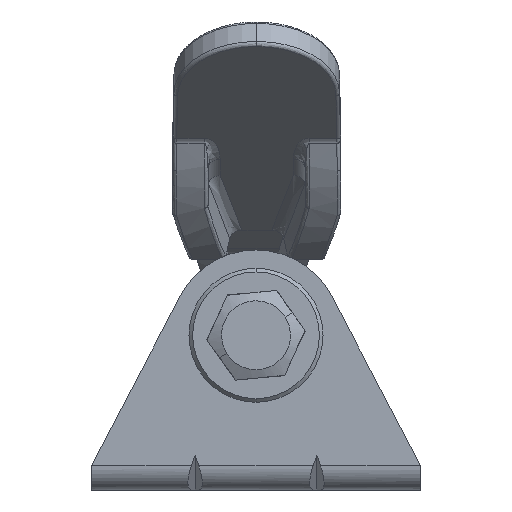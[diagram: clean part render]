
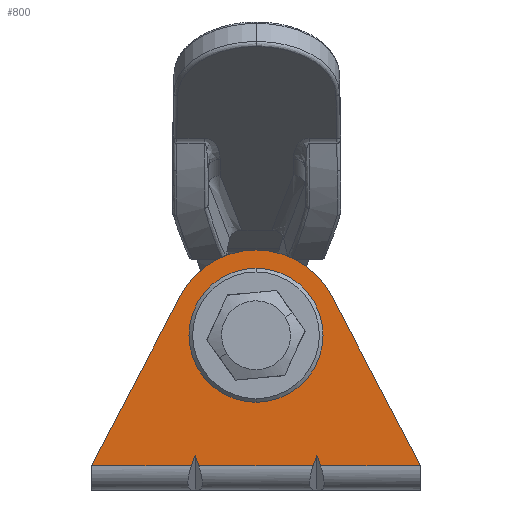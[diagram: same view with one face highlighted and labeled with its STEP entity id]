
A CAD part, left-side view. The second image highlights one B-rep face of the part: STEP entity #800.
In plain terms, the highlighted planar face has unit normal (-1, 0, 0).
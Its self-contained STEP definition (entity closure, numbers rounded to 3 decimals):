
#323 = CARTESIAN_POINT ( 'NONE',  ( -33.3, -13.5, 8.85 ) ) ;
#343 = CARTESIAN_POINT ( 'NONE',  ( -33.3, -4.991, -7.248 ) ) ;
#538 = VECTOR ( 'NONE', #12170, 1000. ) ;
#557 = LINE ( 'NONE', #6515, #4892 ) ;
#736 = DIRECTION ( 'NONE',  ( 0., 0., 1. ) ) ;
#800 = ADVANCED_FACE ( 'N', ( #8740, #19782 ), #19381, .F. ) ;
#1166 = EDGE_CURVE ( 'NONE', #19791, #19181, #557, .T. ) ;
#1184 = VERTEX_POINT ( 'NONE', #3545 ) ;
#1636 = CARTESIAN_POINT ( 'NONE',  ( -33.3, 0., 2. ) ) ;
#1739 = CARTESIAN_POINT ( 'NONE',  ( -33.3, -8.5, 2.869 ) ) ;
#1846 = EDGE_CURVE ( 'NONE', #15965, #20808, #4134, .T. ) ;
#1880 = ORIENTED_EDGE ( 'NONE', *, *, #15501, .F. ) ;
#2090 = ORIENTED_EDGE ( 'NONE', *, *, #16047, .F. ) ;
#2316 = ORIENTED_EDGE ( 'NONE', *, *, #6780, .F. ) ;
#2396 = EDGE_CURVE ( 'NONE', #20808, #21070, #6653, .T. ) ;
#2672 = DIRECTION ( 'NONE',  ( 0., -0.464, -0.886 ) ) ;
#2701 = CARTESIAN_POINT ( 'NONE',  ( -33.3, -13.5, 19.7 ) ) ;
#2801 = CARTESIAN_POINT ( 'NONE',  ( -33.3, -7.298, 15.946 ) ) ;
#3134 = CARTESIAN_POINT ( 'NONE',  ( -33.3, -8.801, 2. ) ) ;
#3173 = DIRECTION ( 'NONE',  ( 0., 1., 0. ) ) ;
#3545 = CARTESIAN_POINT ( 'NONE',  ( -33.3, -18.199, 2. ) ) ;
#3939 = CARTESIAN_POINT ( 'NONE',  ( -33.3, 0., 2. ) ) ;
#4134 = LINE ( 'NONE', #5682, #538 ) ;
#4175 = VERTEX_POINT ( 'NONE', #15142 ) ;
#4218 = LINE ( 'NONE', #343, #21121 ) ;
#4425 = CARTESIAN_POINT ( 'NONE',  ( -33.3, -14.991, -7.248 ) ) ;
#4697 = DIRECTION ( 'NONE',  ( -1., 0., 0. ) ) ;
#4892 = VECTOR ( 'NONE', #14782, 1000. ) ;
#5421 = DIRECTION ( 'NONE',  ( 0., 0., 1. ) ) ;
#5499 = VECTOR ( 'NONE', #20146, 1000. ) ;
#5549 = DIRECTION ( 'NONE',  ( 0., 1., 0. ) ) ;
#5682 = CARTESIAN_POINT ( 'NONE',  ( -33.3, 0., 2. ) ) ;
#5848 = DIRECTION ( 'NONE',  ( 1., 0., 0. ) ) ;
#5879 = EDGE_CURVE ( 'NONE', #16727, #4175, #14587, .T. ) ;
#6310 = DIRECTION ( 'NONE',  ( 0., 0., 1. ) ) ;
#6493 = CIRCLE ( 'NONE', #19031, 3.85 ) ;
#6515 = CARTESIAN_POINT ( 'NONE',  ( -33.3, -8.801, 2. ) ) ;
#6653 = CIRCLE ( 'NONE', #19633, 7. ) ;
#6683 = DIRECTION ( 'NONE',  ( 0., 0.328, -0.945 ) ) ;
#6780 = EDGE_CURVE ( 'NONE', #16893, #15965, #10196, .T. ) ;
#6824 = VECTOR ( 'NONE', #2672, 1000. ) ;
#7656 = CARTESIAN_POINT ( 'NONE',  ( -33.3, 0., 2. ) ) ;
#8003 = CARTESIAN_POINT ( 'NONE',  ( -33.3, -19.702, 15.946 ) ) ;
#8047 = CIRCLE ( 'NONE', #12022, 7. ) ;
#8164 = VERTEX_POINT ( 'NONE', #323 ) ;
#8310 = DIRECTION ( 'NONE',  ( -1., 0., 0. ) ) ;
#8388 = EDGE_CURVE ( 'NONE', #18729, #16727, #11729, .T. ) ;
#8480 = AXIS2_PLACEMENT_3D ( 'NONE', #17738, #21093, #14654 ) ;
#8740 = FACE_BOUND ( 'NONE', #17580, .T. ) ;
#8842 = ORIENTED_EDGE ( 'NONE', *, *, #10820, .F. ) ;
#9231 = ORIENTED_EDGE ( 'NONE', *, *, #14679, .F. ) ;
#9649 = VECTOR ( 'NONE', #16292, 1000. ) ;
#10196 = LINE ( 'NONE', #1636, #9649 ) ;
#10346 = ORIENTED_EDGE ( 'NONE', *, *, #8388, .F. ) ;
#10500 = DIRECTION ( 'NONE',  ( 1., 0., 0. ) ) ;
#10820 = EDGE_CURVE ( 'NONE', #1184, #19181, #17055, .T. ) ;
#11239 = EDGE_LOOP ( 'NONE', ( #17153, #2090, #15717, #10346, #9231, #13897, #18188, #2316, #1880, #20749, #8842 ) ) ;
#11729 = LINE ( 'NONE', #12490, #6824 ) ;
#11863 = VECTOR ( 'NONE', #20888, 1000. ) ;
#11909 = CIRCLE ( 'NONE', #20011, 3.85 ) ;
#12022 = AXIS2_PLACEMENT_3D ( 'NONE', #20176, #10500, #5421 ) ;
#12170 = DIRECTION ( 'NONE',  ( 0., -0.464, 0.886 ) ) ;
#12490 = CARTESIAN_POINT ( 'NONE',  ( -33.3, -27., 2. ) ) ;
#13279 = DIRECTION ( 'NONE',  ( 0., 0., 1. ) ) ;
#13361 = CARTESIAN_POINT ( 'NONE',  ( -33.3, 0., 2. ) ) ;
#13685 = CARTESIAN_POINT ( 'NONE',  ( -33.3, -13.5, 16.55 ) ) ;
#13897 = ORIENTED_EDGE ( 'NONE', *, *, #2396, .F. ) ;
#14123 = ORIENTED_EDGE ( 'NONE', *, *, #17606, .F. ) ;
#14437 = ORIENTED_EDGE ( 'NONE', *, *, #16958, .F. ) ;
#14510 = CARTESIAN_POINT ( 'NONE',  ( -33.3, -13.5, 12.7 ) ) ;
#14587 = LINE ( 'NONE', #7656, #18186 ) ;
#14654 = DIRECTION ( 'NONE',  ( 0., 0., -1. ) ) ;
#14679 = EDGE_CURVE ( 'NONE', #21070, #18729, #8047, .T. ) ;
#14782 = DIRECTION ( 'NONE',  ( 0., -0.328, -0.945 ) ) ;
#15142 = CARTESIAN_POINT ( 'NONE',  ( -33.3, -18.801, 2. ) ) ;
#15352 = CARTESIAN_POINT ( 'NONE',  ( -33.3, -22.009, -7.248 ) ) ;
#15501 = EDGE_CURVE ( 'NONE', #19791, #16893, #4218, .T. ) ;
#15553 = CARTESIAN_POINT ( 'NONE',  ( -33.3, -13.5, 12.7 ) ) ;
#15717 = ORIENTED_EDGE ( 'NONE', *, *, #5879, .F. ) ;
#15965 = VERTEX_POINT ( 'NONE', #13361 ) ;
#16011 = LINE ( 'NONE', #15352, #5499 ) ;
#16047 = EDGE_CURVE ( 'NONE', #4175, #20318, #16011, .T. ) ;
#16292 = DIRECTION ( 'NONE',  ( 0., 1., 0. ) ) ;
#16342 = CARTESIAN_POINT ( 'NONE',  ( -33.3, -18.5, 2.869 ) ) ;
#16727 = VERTEX_POINT ( 'NONE', #18623 ) ;
#16893 = VERTEX_POINT ( 'NONE', #17886 ) ;
#16958 = EDGE_CURVE ( 'NONE', #18918, #8164, #6493, .T. ) ;
#17055 = LINE ( 'NONE', #3939, #19873 ) ;
#17153 = ORIENTED_EDGE ( 'NONE', *, *, #19138, .F. ) ;
#17580 = EDGE_LOOP ( 'NONE', ( #14437, #14123 ) ) ;
#17606 = EDGE_CURVE ( 'NONE', #8164, #18918, #11909, .T. ) ;
#17738 = CARTESIAN_POINT ( 'NONE',  ( -33.3, 0., 2. ) ) ;
#17886 = CARTESIAN_POINT ( 'NONE',  ( -33.3, -8.199, 2. ) ) ;
#18153 = CARTESIAN_POINT ( 'NONE',  ( -33.3, -13.5, 12.7 ) ) ;
#18186 = VECTOR ( 'NONE', #3173, 1000. ) ;
#18188 = ORIENTED_EDGE ( 'NONE', *, *, #1846, .F. ) ;
#18623 = CARTESIAN_POINT ( 'NONE',  ( -33.3, -27., 2. ) ) ;
#18729 = VERTEX_POINT ( 'NONE', #8003 ) ;
#18918 = VERTEX_POINT ( 'NONE', #13685 ) ;
#19031 = AXIS2_PLACEMENT_3D ( 'NONE', #14510, #4697, #6310 ) ;
#19138 = EDGE_CURVE ( 'NONE', #20318, #1184, #20806, .T. ) ;
#19181 = VERTEX_POINT ( 'NONE', #3134 ) ;
#19381 = PLANE ( 'NONE',  #8480 ) ;
#19633 = AXIS2_PLACEMENT_3D ( 'NONE', #15553, #5848, #736 ) ;
#19782 = FACE_OUTER_BOUND ( 'NONE', #11239, .T. ) ;
#19791 = VERTEX_POINT ( 'NONE', #1739 ) ;
#19873 = VECTOR ( 'NONE', #5549, 1000. ) ;
#20011 = AXIS2_PLACEMENT_3D ( 'NONE', #18153, #8310, #13279 ) ;
#20146 = DIRECTION ( 'NONE',  ( 0., 0.328, 0.945 ) ) ;
#20176 = CARTESIAN_POINT ( 'NONE',  ( -33.3, -13.5, 12.7 ) ) ;
#20318 = VERTEX_POINT ( 'NONE', #16342 ) ;
#20749 = ORIENTED_EDGE ( 'NONE', *, *, #1166, .T. ) ;
#20806 = LINE ( 'NONE', #4425, #11863 ) ;
#20808 = VERTEX_POINT ( 'NONE', #2801 ) ;
#20888 = DIRECTION ( 'NONE',  ( 0., 0.328, -0.945 ) ) ;
#21070 = VERTEX_POINT ( 'NONE', #2701 ) ;
#21093 = DIRECTION ( 'NONE',  ( 1., 0., 0. ) ) ;
#21121 = VECTOR ( 'NONE', #6683, 1000. ) ;
